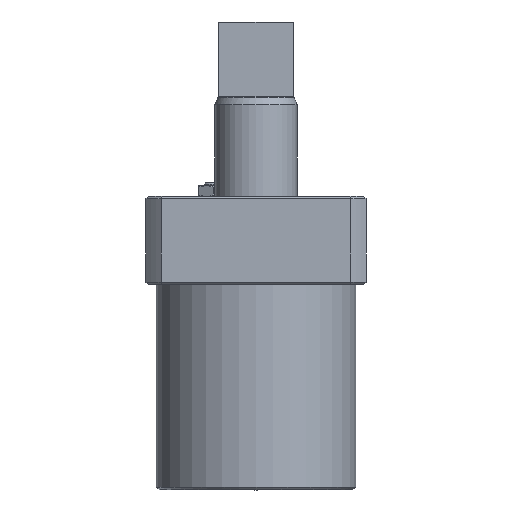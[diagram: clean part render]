
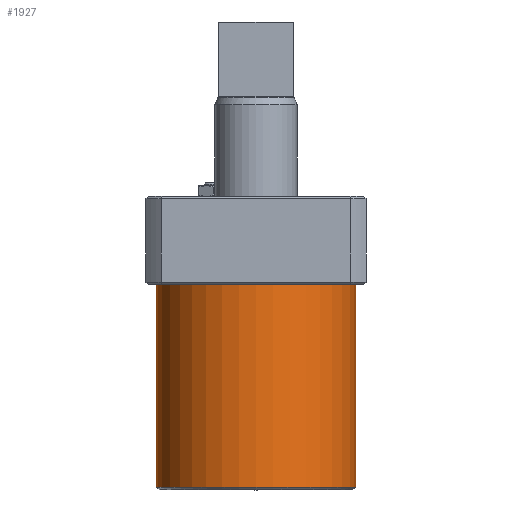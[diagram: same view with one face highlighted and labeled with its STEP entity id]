
A CAD part, left-side view. The second image highlights one B-rep face of the part: STEP entity #1927.
In plain terms, the highlighted cylindrical face has radius 34 mm (diameter 68 mm), a full revolution.
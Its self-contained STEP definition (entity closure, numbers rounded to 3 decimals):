
#153=CYLINDRICAL_SURFACE('',#2163,34.);
#483=ORIENTED_EDGE('',*,*,#922,.T.);
#484=ORIENTED_EDGE('',*,*,#921,.F.);
#921=EDGE_CURVE('',#1156,#1156,#1321,.T.);
#922=EDGE_CURVE('',#1157,#1157,#1322,.T.);
#1156=VERTEX_POINT('',#3068);
#1157=VERTEX_POINT('',#3071);
#1321=CIRCLE('',#2162,34.);
#1322=CIRCLE('',#2164,34.);
#1462=EDGE_LOOP('',(#483));
#1463=EDGE_LOOP('',(#484));
#1682=FACE_BOUND('',#1462,.T.);
#1683=FACE_BOUND('',#1463,.T.);
#1927=ADVANCED_FACE('',(#1682,#1683),#153,.T.);
#2162=AXIS2_PLACEMENT_3D('',#3067,#2504,#2505);
#2163=AXIS2_PLACEMENT_3D('',#3069,#2506,#2507);
#2164=AXIS2_PLACEMENT_3D('',#3070,#2508,#2509);
#2504=DIRECTION('',(0.,0.,1.));
#2505=DIRECTION('',(0.,-1.,0.));
#2506=DIRECTION('',(0.,0.,1.));
#2507=DIRECTION('',(0.,-1.,0.));
#2508=DIRECTION('',(0.,0.,1.));
#2509=DIRECTION('',(1.,0.,0.));
#3067=CARTESIAN_POINT('',(0.,39.5,-9.7));
#3068=CARTESIAN_POINT('',(0.,5.5,-9.7));
#3069=CARTESIAN_POINT('',(0.,39.5,-79.7));
#3070=CARTESIAN_POINT('',(0.,39.5,-78.7));
#3071=CARTESIAN_POINT('',(34.,39.5,-78.7));
